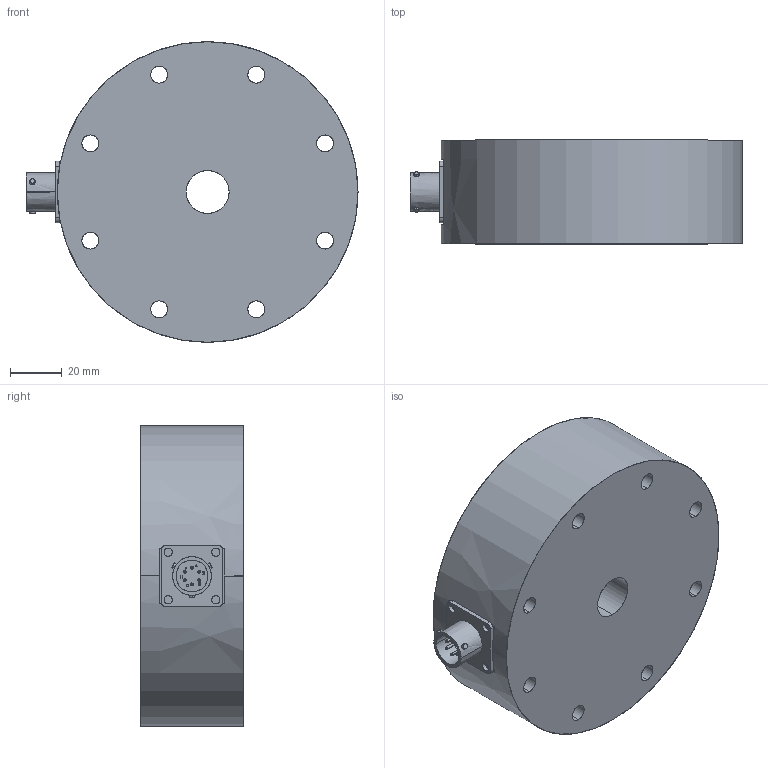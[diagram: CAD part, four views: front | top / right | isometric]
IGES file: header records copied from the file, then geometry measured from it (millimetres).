
Start section: SolidWorks IGES file using analytic representation for surfaces
Global section: file name: D:\SOLIDWORKS\TH x sito\cat\TH completa.IGS; native system: SolidWorks 2015; preprocessor: SolidWorks 2015; author: daniele.peli; date: 160304.142321; units: millimetre
Bounding box: 128.1 x 40 x 116 mm (x, y, z)
Surface area: 47089 mm2 (no closed solid volume)
Topology: 0 solids, 0 shells, 291 faces, 3872 edges, 3872 vertices
Faces by surface type: bspline 221, revolution 70
